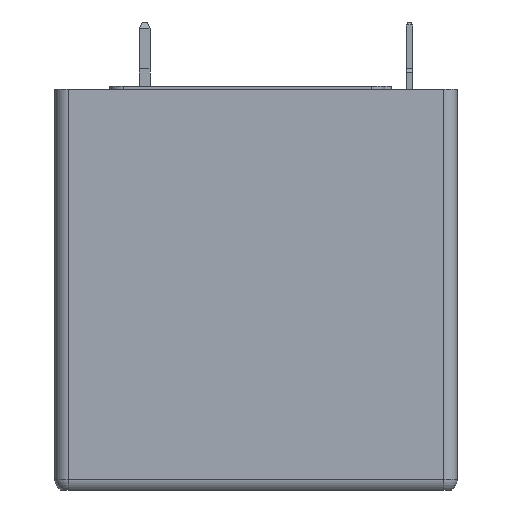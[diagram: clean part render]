
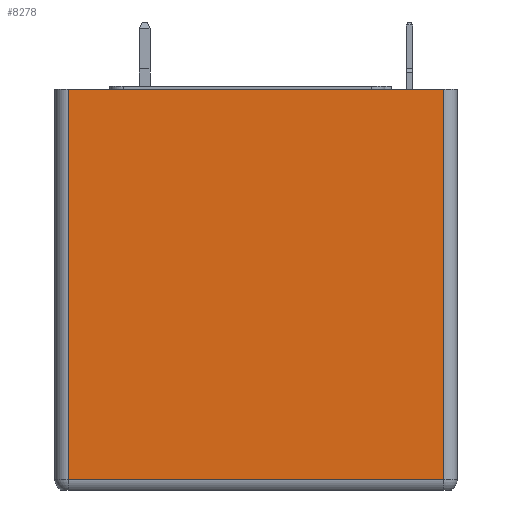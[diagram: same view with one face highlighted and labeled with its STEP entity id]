
A CAD part, left-side view. The second image highlights one B-rep face of the part: STEP entity #8278.
In plain terms, the highlighted planar face has unit normal (-1, 0, 0).
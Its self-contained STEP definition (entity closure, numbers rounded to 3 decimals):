
#728=ORIENTED_EDGE('',*,*,#3174,.T.);
#729=ORIENTED_EDGE('',*,*,#3178,.T.);
#730=ORIENTED_EDGE('',*,*,#3132,.T.);
#731=ORIENTED_EDGE('',*,*,#3179,.T.);
#3132=EDGE_CURVE('',#4347,#4343,#5163,.F.);
#3174=EDGE_CURVE('',#4383,#4382,#5188,.T.);
#3178=EDGE_CURVE('',#4382,#4347,#5190,.T.);
#3179=EDGE_CURVE('',#4343,#4383,#5191,.F.);
#4343=VERTEX_POINT('',#11996);
#4347=VERTEX_POINT('',#12005);
#4382=VERTEX_POINT('',#12090);
#4383=VERTEX_POINT('',#12092);
#5163=LINE('',#12007,#6085);
#5188=LINE('',#12091,#6110);
#5190=LINE('',#12099,#6112);
#5191=LINE('',#12100,#6113);
#6085=VECTOR('',#9659,1000.);
#6110=VECTOR('',#9732,1000.);
#6112=VECTOR('',#9740,1000.);
#6113=VECTOR('',#9741,1000.);
#6954=EDGE_LOOP('',(#728,#729,#730,#731));
#7454=FACE_BOUND('',#6954,.T.);
#7941=PLANE('',#8848);
#8278=ADVANCED_FACE('',(#7454),#7941,.T.);
#8848=AXIS2_PLACEMENT_3D('',#12098,#9738,#9739);
#9659=DIRECTION('',(0.,1.,0.));
#9732=DIRECTION('',(0.,1.,0.));
#9738=DIRECTION('',(-1.,0.,0.));
#9739=DIRECTION('',(0.,0.,1.));
#9740=DIRECTION('',(0.,0.,-1.));
#9741=DIRECTION('',(0.,0.,-1.));
#11996=CARTESIAN_POINT('',(-14.6,-14.,1.));
#12005=CARTESIAN_POINT('',(-14.6,14.,1.));
#12007=CARTESIAN_POINT('',(-14.6,-15.,1.));
#12090=CARTESIAN_POINT('',(-14.6,14.,30.1));
#12091=CARTESIAN_POINT('',(-14.6,-15.,30.1));
#12092=CARTESIAN_POINT('',(-14.6,-14.,30.1));
#12098=CARTESIAN_POINT('',(-14.6,-15.,30.1));
#12099=CARTESIAN_POINT('',(-14.6,14.,30.1));
#12100=CARTESIAN_POINT('',(-14.6,-14.,30.1));
